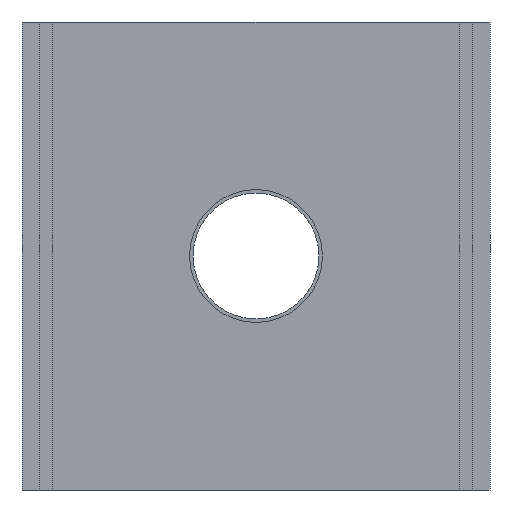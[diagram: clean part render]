
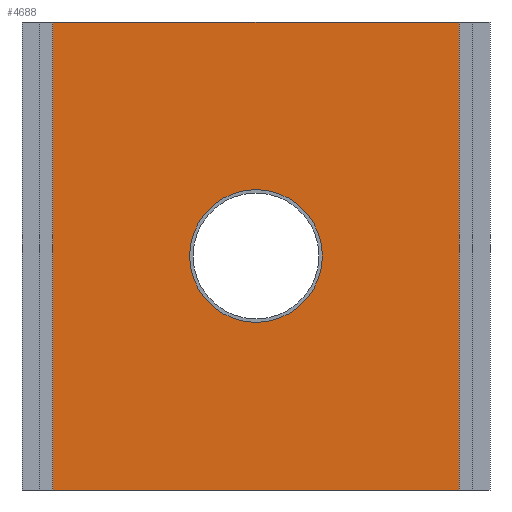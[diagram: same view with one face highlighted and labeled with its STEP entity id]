
A CAD part, front view. The second image highlights one B-rep face of the part: STEP entity #4688.
In plain terms, the highlighted planar face has unit normal (0, -1, 0).
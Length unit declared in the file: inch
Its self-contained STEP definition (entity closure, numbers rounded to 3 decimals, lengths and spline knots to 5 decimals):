
#4010=CARTESIAN_POINT('',(-9.19291,-3.85871,10.57087));
#4011=VERTEX_POINT('',#4010);
#4018=CARTESIAN_POINT('',(9.19291,-3.85871,10.57087));
#4019=VERTEX_POINT('',#4018);
#4020=CARTESIAN_POINT('',(9.19291,-3.85871,10.57087));
#4021=DIRECTION('',(-1.0,0.0,0.0));
#4022=VECTOR('',#4021,18.38583);
#4023=LINE('',#4020,#4022);
#4024=EDGE_CURVE('',#4019,#4011,#4023,.T.);
#4182=CARTESIAN_POINT('',(-3.0,-3.85871,0.));
#4183=VERTEX_POINT('',#4182);
#4184=CARTESIAN_POINT('',(0.0,-3.85871,0.0));
#4185=DIRECTION('',(0.0,1.0,0.0));
#4186=DIRECTION('',(1.0,0.0,0.0));
#4187=AXIS2_PLACEMENT_3D('',#4184,#4185,#4186);
#4188=CIRCLE('',#4187,3.0);
#4189=EDGE_CURVE('',#4183,#4183,#4188,.T.);
#4644=CARTESIAN_POINT('',(9.19291,-3.85871,-10.57087));
#4645=VERTEX_POINT('',#4644);
#4646=CARTESIAN_POINT('',(9.19291,-3.85871,-10.57087));
#4647=DIRECTION('',(0.0,0.0,1.0));
#4648=VECTOR('',#4647,21.14173);
#4649=LINE('',#4646,#4648);
#4650=EDGE_CURVE('',#4645,#4019,#4649,.T.);
#4662=CARTESIAN_POINT('',(9.19291,-3.85871,0.0));
#4663=DIRECTION('',(0.0,-1.0,0.0));
#4664=DIRECTION('',(0.0,0.0,-1.0));
#4665=AXIS2_PLACEMENT_3D('',#4662,#4663,#4664);
#4666=PLANE('',#4665);
#4667=ORIENTED_EDGE('',*,*,#4024,.T.);
#4668=CARTESIAN_POINT('',(-9.19291,-3.85871,-10.57087));
#4669=VERTEX_POINT('',#4668);
#4670=CARTESIAN_POINT('',(-9.19291,-3.85871,-10.57087));
#4671=DIRECTION('',(0.0,0.0,1.0));
#4672=VECTOR('',#4671,21.14173);
#4673=LINE('',#4670,#4672);
#4674=EDGE_CURVE('',#4669,#4011,#4673,.T.);
#4675=ORIENTED_EDGE('',*,*,#4674,.F.);
#4676=CARTESIAN_POINT('',(-9.19291,-3.85871,-10.57087));
#4677=DIRECTION('',(1.0,0.0,0.0));
#4678=VECTOR('',#4677,18.38583);
#4679=LINE('',#4676,#4678);
#4680=EDGE_CURVE('',#4669,#4645,#4679,.T.);
#4681=ORIENTED_EDGE('',*,*,#4680,.T.);
#4682=ORIENTED_EDGE('',*,*,#4650,.T.);
#4683=EDGE_LOOP('',(#4667,#4675,#4681,#4682));
#4684=FACE_OUTER_BOUND('',#4683,.T.);
#4685=ORIENTED_EDGE('',*,*,#4189,.T.);
#4686=EDGE_LOOP('',(#4685));
#4687=FACE_BOUND('',#4686,.T.);
#4688=ADVANCED_FACE('',(#4684,#4687),#4666,.T.);
